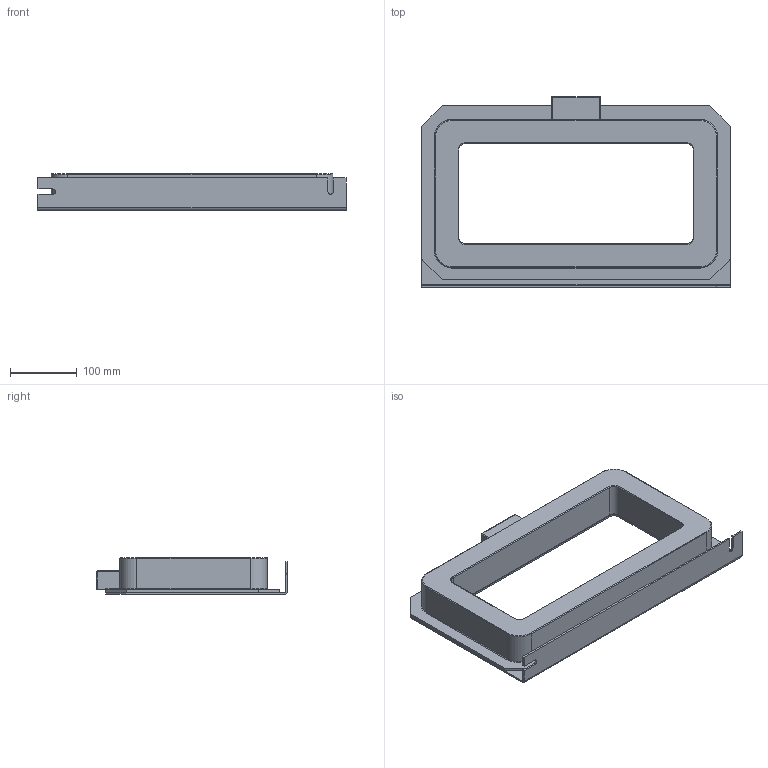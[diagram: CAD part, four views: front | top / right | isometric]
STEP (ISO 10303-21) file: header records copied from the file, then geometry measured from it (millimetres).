
FILE_DESCRIPTION (( 'STEP AP214' ), '1' );
FILE_NAME ('A 164226.STEP', '2016-07-11T12:09:49', ( 'User' ), ( 'Bender' ), 'SwSTEP 2.0', 'SolidWorks 2016', '' );
FILE_SCHEMA (( 'AUTOMOTIVE_DESIGN' ));
Length unit declared in the file: millimetre
Products named in the file (1): A 164226
Bounding box: 460 x 285 x 55 mm (x, y, z)
Volume: 2500797.6 mm3; surface area: 437976.8 mm2
Topology: 2 solids, 2 shells, 110 faces, 272 edges, 162 vertices
Faces by surface type: plane 44, cylinder 44, torus 18, sphere 4
Entity records: 3245 total; most frequent: DIRECTION 590, CARTESIAN_POINT 547, ORIENTED_EDGE 536, EDGE_CURVE 268, AXIS2_PLACEMENT_3D 213, LINE 164, VECTOR 164, VERTEX_POINT 162
